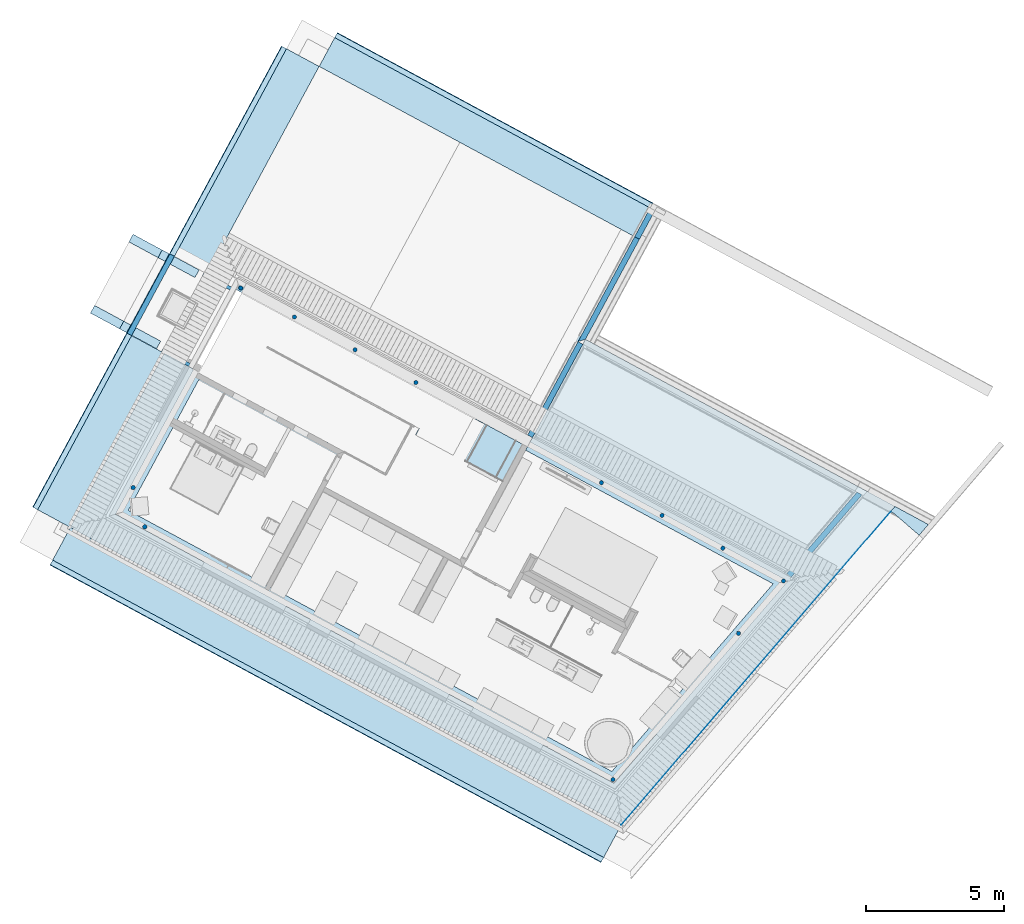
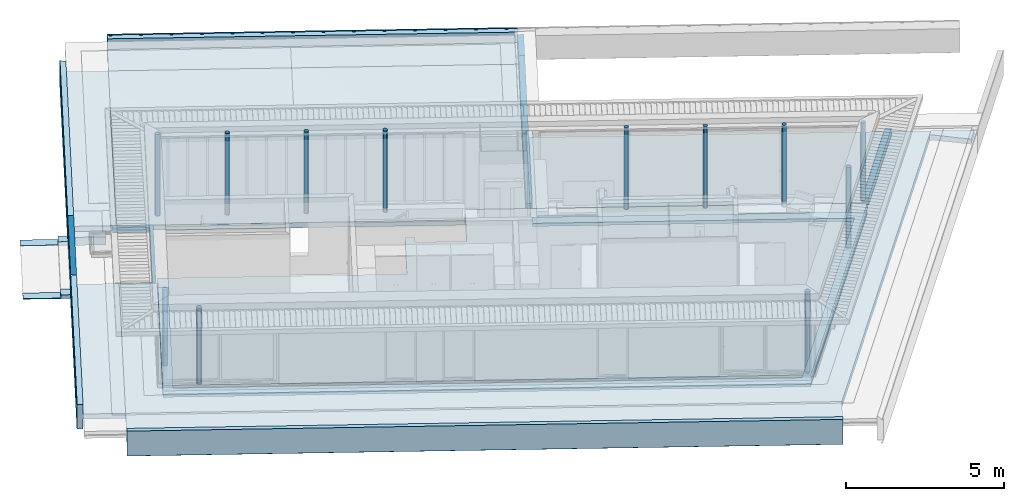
# One storey, part 1 of 41: 18 slabs, 12 columns.
"""IFC2X3 building model written with IfcOpenShell, lengths in metres."""

from ifc_helpers import new_model, entity, si_unit, converted_unit, derived_unit, money_unit, direction, frame, origin_with_axes, origin_2d_with_axis, place, context, subcontext, project, spatial, polyline, circle, hollow_circle, outline, composite_profile, extrude, material, material_list, layer, layer_set, layer_usage, type_object, element, save


model = new_model("IFC2X3")

# Units and contexts
model_context = context("Model", 3, precision=1e-05, world=origin_with_axes(), true_north=direction((0.0, 1.0)))
body_context = subcontext(model_context, "Body", "Model", "MODEL_VIEW")
ifc_project = project(units=[si_unit("LENGTHUNIT", "METRE"), si_unit("AREAUNIT", "SQUARE_METRE"), si_unit("VOLUMEUNIT", "CUBIC_METRE"), converted_unit("PLANEANGLEUNIT", "DEGREE", entity("IfcPlaneAngleMeasure", 0.0174532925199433), si_unit("PLANEANGLEUNIT", "RADIAN"), dimensions=[0, 0, 0, 0, 0, 0, 0]), money_unit("EUR"), converted_unit("TIMEUNIT", "Year", entity("IfcTimeMeasure", 31556926.0), si_unit("TIMEUNIT", "SECOND"), dimensions=[0, 0, 1, 0, 0, 0, 0]), si_unit("MASSUNIT", "GRAM", prefix="KILO"), si_unit("THERMODYNAMICTEMPERATUREUNIT", "DEGREE_CELSIUS"), si_unit("LUMINOUSINTENSITYUNIT", "LUMEN"), si_unit("ENERGYUNIT", "JOULE", prefix="MEGA"), derived_unit("THERMALCONDUCTANCEUNIT", [(si_unit("POWERUNIT", "WATT"), 1), (si_unit("LENGTHUNIT", "METRE"), -1), (si_unit("THERMODYNAMICTEMPERATUREUNIT", "KELVIN"), -1)]), derived_unit("SPECIFICHEATCAPACITYUNIT", [(si_unit("ENERGYUNIT", "JOULE"), 1), (si_unit("MASSUNIT", "GRAM", prefix="KILO"), -1), (si_unit("THERMODYNAMICTEMPERATUREUNIT", "KELVIN"), -1)]), derived_unit("MASSDENSITYUNIT", [(si_unit("MASSUNIT", "GRAM", prefix="KILO"), 1), (si_unit("VOLUMEUNIT", "CUBIC_METRE"), -1)])], contexts=[model_context])

# Site, building, storey
site_placement = place(None, frame((-3.949935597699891, 1.740105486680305, 0.0), z_axis=(0.0, 0.0, 1.0), x_axis=(0.8799804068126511, -0.475009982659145, 0.0)))
site = spatial("IfcSite", under=ifc_project, at=site_placement, Name="Gelände", CompositionType="ELEMENT")
building_placement = place(site_placement, origin_with_axes())
building = spatial("IfcBuilding", under=site, at=building_placement, Name="Gebäude", CompositionType="ELEMENT")
storey_placement = place(building_placement, frame((0.0, 0.0, 4.55), z_axis=(0.0, 0.0, 1.0), x_axis=(1.0, 0.0, 0.0)))
storey = spatial("IfcBuildingStorey", under=building, at=storey_placement, Name="Staffelgeschoss", CompositionType="ELEMENT", Elevation=4.55)

# Columns
ifc_material_1 = material(Name="Metall, Edelstahl")
column_type_1 = type_object("IfcColumnType", Name="Metall, Edelstahl D152", PredefinedType="COLUMN")
for number, where, z_axis, x_axis in (
    (1, (22.83947506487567, 10.78779359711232, -0.1900000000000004), (0.0, 0.0, 1.0), (1.0, 0.0, 0.0)),
    (2, (25.33797506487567, 10.78779359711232, -0.1900000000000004), (0.0, 0.0, 1.0), (1.0, 0.0, 0.0)),
    (3, (20.34097506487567, 10.78779359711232, -0.1900000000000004), (0.0, 0.0, 1.0), (1.0, 0.0, 0.0)),
):
    element("IfcColumn", number, at=place(storey_placement, frame(where, z_axis=z_axis, x_axis=x_axis)), inside=storey, type_object=column_type_1, material=ifc_material_1, Name="Stütze-003", ObjectType="COLUMN", context=body_context, shape_type="SweptSolid", body=[
        extrude(circle(Radius=0.076, at=origin_2d_with_axis()), origin_with_axes(), (0.0, 0.0, 1.0), 3.155000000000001),
    ])
ifc_material_2 = material(Name="_SIWH | Metall, Stahl lackiert")
ifc_material_3 = material(Name="_SIWH - Luftschicht vertikal")
ifc_material_list_1 = material_list([ifc_material_2, ifc_material_3])
column_type_2 = type_object("IfcColumnType", Name="_SIWH - Luftschicht vertikal D160", PredefinedType="COLUMN")
for number, where, z_axis, x_axis in (
    (4, (5.49748062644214, 2.574985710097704, -0.1900000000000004), (0.0, 0.0, 1.0), (1.0, 0.0, 0.0)),
    (5, (6.547480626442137, 1.524985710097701, -0.1900000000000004), (0.0, 0.0, 1.0), (1.0, 0.0, 0.0)),
):
    element("IfcColumn", number, at=place(storey_placement, frame(where, z_axis=z_axis, x_axis=x_axis)), inside=storey, type_object=column_type_2, material=ifc_material_list_1, Name="Stütze-003", ObjectType="COLUMN", context=body_context, shape_type="SweptSolid", body=[
        extrude(composite_profile([hollow_circle(Radius=0.07984999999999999, WallThickness=0.01, at=origin_2d_with_axis()), circle(Radius=0.06985, at=origin_2d_with_axis())]), origin_with_axes(), (0.0, 0.0, 1.0), 2.939999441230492),
    ])
ifc_material_4 = material(Name="Metall, Stahl lackiert")
column_type_3 = type_object("IfcColumnType", Name="Metall, Stahl lackiert D152", PredefinedType="COLUMN")
for number, where, z_axis, x_axis, name in (
    (6, (10.20533791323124, 10.78779359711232, -0.1499999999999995), (0.0, 0.0, 1.0), (1.0, 0.0, 0.0), "Stütze-003"),
    (7, (27.30450369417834, 8.344167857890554, -0.1499999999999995), (0.0, 0.0, 1.0), (1.0, 0.0, 0.0), "Stütze-004"),
    (8, (12.7047804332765, 10.78779359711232, -0.1499999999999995), (0.0, 0.0, 1.0), (1.0, 0.0, 0.0), "Stütze-003"),
    (9, (25.81513939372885, 1.524987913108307, -0.1499999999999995), (0.0, 0.0, 1.0), (1.0, 0.0, 0.0), "Stütze-004"),
    (10, (7.70533791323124, 10.78779359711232, -0.1499999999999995), (0.0, 0.0, 1.0), (1.0, 0.0, 0.0), "Stütze-003"),
):
    element("IfcColumn", number, at=place(storey_placement, frame(where, z_axis=z_axis, x_axis=x_axis)), inside=storey, type_object=column_type_3, material=ifc_material_4, Name=name, ObjectType="COLUMN", context=body_context, shape_type="SweptSolid", body=[
        extrude(circle(Radius=0.076, at=origin_2d_with_axis()), origin_with_axes(), (0.0, 0.0, 1.0), 3.154000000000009),
    ])
column_1_placement = place(storey_placement, frame((27.83821215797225, 10.78779359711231, -8.523344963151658e-08), z_axis=(0.0, 0.0, 1.0), x_axis=(1.0, 0.0, 0.0)))
element("IfcColumn", 11, at=column_1_placement, inside=storey, type_object=column_type_3, material=ifc_material_4, Name="Stütze-004", ObjectType="COLUMN", context=body_context, shape_type="SweptSolid", body=[
    extrude(circle(Radius=0.076, at=origin_2d_with_axis()), origin_with_axes(), (0.0, 0.0, 1.0), 3.004000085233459),
])
column_2_placement = place(storey_placement, frame((5.497480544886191, 10.78779359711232, -0.1499999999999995), z_axis=(0.0, 0.0, 1.0), x_axis=(1.0, 0.0, 0.0)))
element("IfcColumn", 12, at=column_2_placement, inside=storey, type_object=column_type_3, material=ifc_material_4, Name="Stütze-003", ObjectType="COLUMN", context=body_context, shape_type="SweptSolid", body=[
    extrude(circle(Radius=0.076, at=origin_2d_with_axis()), origin_with_axes(), (0.0, 0.0, 1.0), 3.154000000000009),
])

# Slabs
ifc_material_5 = material(Name="_SIWH - Beton, Stahlbeton")
ifc_layer_1 = layer(ifc_material_5, 0.25, ventilated="UNKNOWN")
ifc_layer_set_1 = layer_set([ifc_layer_1], Name="_SIWH - Beton, Stahlbeton 0.25")
ifc_layer_usage_1 = layer_usage(ifc_layer_set_1, "AXIS3", "NEGATIVE", 0.25)
slab_type_1 = type_object("IfcSlabType", Name="_SIWH - Beton, Stahlbeton 250", PredefinedType="FLOOR")
slab_1_placement = place(storey_placement, frame((4.182683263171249, 7.393034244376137, -0.3999999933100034), z_axis=(0.0, 0.0, 1.0), x_axis=(1.0, 0.0, 0.0)))
element("IfcSlab", 13, at=slab_1_placement, inside=storey, type_object=slab_type_1, material=ifc_layer_usage_1, Name="Decke009", PredefinedType="FLOOR", context=body_context, shape_type="SweptSolid", body=[
    extrude(outline(polyline([(0.0, 0.0), (-0.0002009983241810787, -7.168046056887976), (22.67915953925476, -7.168046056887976), (25.87189527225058, 7.450011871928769), (25.92431329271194, 7.690011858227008), (24.71647704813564, 7.690011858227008), (13.18479451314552, 7.690011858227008), (13.18477730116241, 3.464766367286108), (23.79364780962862, 3.464766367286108), (21.73344188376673, -5.968046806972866), (1.214797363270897, -5.968046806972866), (1.214797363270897, -0.03997470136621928), (1.174797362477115, -0.03997388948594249), (1.174799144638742, 0.0), (0.0, 0.0)])), frame((0.0, 0.0, -0.25), z_axis=(0.0, 0.0, 1.0), x_axis=(1.0, 0.0, 0.0)), (0.0, 0.0, 1.0), 0.25),
])
ifc_layer_usage_2 = layer_usage(ifc_layer_set_1, "AXIS3", "NEGATIVE", 0.25)
slab_2_placement = place(storey_placement, frame((30.05457860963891, 14.84304620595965, -0.3999999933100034), z_axis=(0.0, 0.0, 1.0), x_axis=(1.0, 0.0, 0.0)))
element("IfcSlab", 14, at=slab_2_placement, inside=storey, type_object=slab_type_1, material=ifc_layer_usage_2, Name="Decke-004", PredefinedType="FLOOR", context=body_context, shape_type="SweptSolid", body=[
    extrude(outline(polyline([(0.0, 0.0), (-3.192735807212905, -14.61805801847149), (-3.192707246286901, -14.61805801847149), (0.0, 0.0)])), frame((0.0, 0.0, -0.25), z_axis=(0.0, 0.0, 1.0), x_axis=(1.0, 0.0, 0.0)), (0.0, 0.0, 1.0), 0.25),
])
slab_type_2 = type_object("IfcSlabType", Name="_SIWH - Beton, Stahlbeton 200", PredefinedType="FLOOR")
slab_3_placement = place(storey_placement, frame((17.36747696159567, 14.88304610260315, -0.4499999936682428), z_axis=(0.0, 0.0, 1.0), x_axis=(0.0, -1.0, 0.0)))
element("IfcSlab", 15, at=slab_3_placement, inside=storey, type_object=slab_type_2, material=ifc_material_5, Name="Wand-026", PredefinedType="FLOOR", context=body_context, shape_type="SweptSolid", body=[
    extrude(outline(polyline([(-8.147210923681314e-07, -0.1999999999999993), (3.845245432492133, -0.1999999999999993), (3.845245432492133, 0.0), (0.0, 0.0), (-8.147210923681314e-07, -0.1999999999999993)])), origin_with_axes(), (0.0, 0.0, 1.0), 0.3249999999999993),
])
slab_4_placement = place(storey_placement, frame((28.01564459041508, 11.0378006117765, -0.3999999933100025), z_axis=(0.0, 0.0, 1.0), x_axis=(0.2133784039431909, 0.9769696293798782, 0.0)))
element("IfcSlab", 16, at=slab_4_placement, inside=storey, type_object=slab_type_2, material=ifc_material_5, Name="Wand-026", PredefinedType="FLOOR", context=body_context, shape_type="SweptSolid", body=[
    extrude(outline(polyline([(0.0, 0.0), (3.935842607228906, 0.0), (3.892161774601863, 0.2000000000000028), (-0.04368168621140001, 0.1999999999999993), (0.0, 0.0)])), origin_with_axes(), (0.0, 0.0, 1.0), 0.2749999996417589),
])
slab_5_placement = place(storey_placement, frame((17.3674759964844, 19.20028827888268, -0.6499999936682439), z_axis=(0.0, 0.0, 1.0), x_axis=(0.0, 1.0, 0.0)))
element("IfcSlab", 17, at=slab_5_placement, inside=storey, type_object=slab_type_2, material=ifc_material_5, Name="Wand-026", PredefinedType="FLOOR", context=body_context, shape_type="SweptSolid", body=[
    extrude(outline(polyline([(0.0, 0.0), (1.18499388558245, 0.0), (1.18499388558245, 0.1999999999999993), (0.0, 0.1999999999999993), (0.0, 0.0)])), origin_with_axes(), (0.0, 0.0, 1.0), 0.525),
])
slab_6_placement = place(storey_placement, frame((17.36747696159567, 14.88304610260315, -0.4499999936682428), z_axis=(0.0, 0.0, 1.0), x_axis=(0.0, 1.0, 0.0)))
element("IfcSlab", 18, at=slab_6_placement, inside=storey, type_object=slab_type_2, material=ifc_material_5, Name="Wand-026", PredefinedType="FLOOR", context=body_context, shape_type="SweptSolid", body=[
    extrude(outline(polyline([(0.2000000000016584, 0.0), (4.317284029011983, 0.0), (4.317284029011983, 0.1999999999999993), (8.147210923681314e-07, 0.1999999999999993), (0.2000000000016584, 0.0)])), origin_with_axes(), (0.0, 0.0, 1.0), 0.3249999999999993),
])
ifc_layer_2 = layer(ifc_material_5, 0.2, ventilated="UNKNOWN")
ifc_layer_set_2 = layer_set([ifc_layer_2], Name="_SIWH - Beton, Stahlbeton 0.2")
ifc_layer_usage_3 = layer_usage(ifc_layer_set_2, "AXIS3", "NEGATIVE", 0.2)
slab_7_placement = place(storey_placement, frame((4.182482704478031, 10.65779936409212, -0.4499999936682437), z_axis=(0.0, 0.0, 1.0), x_axis=(1.0, 0.0, 0.0)))
element("IfcSlab", 19, at=slab_7_placement, inside=storey, type_object=slab_type_2, material=ifc_layer_usage_3, Name="Decke010", PredefinedType="FLOOR", context=body_context, shape_type="SweptSolid", body=[
    extrude(outline(polyline([(0.0, 0.0), (13.18499425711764, 0.0), (13.18499425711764, 8.542475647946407), (0.0, 8.542475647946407), (0.0, 0.0)])), frame((0.0, 0.0, -0.2), z_axis=(0.0, 0.0, 1.0), x_axis=(1.0, 0.0, 0.0)), (0.0, 0.0, 1.0), 0.2),
])
ifc_layer_usage_4 = layer_usage(ifc_layer_set_2, "AXIS3", "NEGATIVE", 0.2)
slab_8_placement = place(storey_placement, frame((30.1069965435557, 15.08304610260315, -0.3999999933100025), z_axis=(0.0, 0.0, 1.0), x_axis=(1.0, 0.0, 0.0)))
element("IfcSlab", 20, at=slab_8_placement, inside=storey, type_object=slab_type_2, material=ifc_layer_usage_4, Name="Decke-004", PredefinedType="FLOOR", context=body_context, shape_type="SweptSolid", body=[
    extrude(outline(polyline([(0.0, 0.0), (-0.05241793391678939, -0.2399998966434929), (0.07041087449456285, -0.2399998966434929), (1.267198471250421, -0.5013886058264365), (1.376706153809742, 0.0), (0.0, 0.0)])), frame((0.0, 0.0, -0.2), z_axis=(0.0, 0.0, 1.0), x_axis=(1.0, 0.0, 0.0)), (0.0, 0.0, 1.0), 0.2),
])
ifc_material_6 = material(Name="_SIWH - Dämmung, weich Mineralwolle")
ifc_material_7 = material(Name="_SIWH - Beton, Stahlbeton Fertigteil")
ifc_material_8 = material(Name="_SIWH - Metall, Aluminium")
ifc_material_list_2 = material_list([ifc_material_6, ifc_material_5, ifc_material_7, ifc_material_8])
slab_type_3 = type_object("IfcSlabType", Name="_SIWH - Vordach+Arkade2 1555 x 980", PredefinedType="FLOOR")
slab_9_placement = place(storey_placement, frame((4.182489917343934, 10.65779936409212, -0.3999999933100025), z_axis=(0.0, 0.0, 1.0), x_axis=(0.0, 1.0, 0.0)))
element("IfcSlab", 21, at=slab_9_placement, inside=storey, type_object=slab_type_3, material=ifc_material_list_2, Name="Wand-024", PredefinedType="FLOOR", context=body_context, shape_type="SweptSolid", body=[
    extrude(composite_profile([outline(polyline([(0.0, -0.2500000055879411), (0.1199999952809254, -0.2500000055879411), (0.1199999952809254, -0.05000000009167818), (0.0, -0.05000000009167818), (0.0, -0.2500000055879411)])), outline(polyline([(1.344999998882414, -0.05000000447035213), (0.1199999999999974, -0.05000000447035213), (0.1199999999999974, -0.2500000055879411), (1.344999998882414, -0.2500000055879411), (1.344999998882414, -0.05000000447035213)])), outline(polyline([(1.545000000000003, -0.570000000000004), (1.545000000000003, 0.3699875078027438), (1.345, 0.3599875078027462), (1.344999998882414, -0.05000000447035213), (1.344999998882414, -0.2500000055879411), (1.345, -0.5700000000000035), (1.354999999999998, -0.5800000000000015), (1.480000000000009, -0.5800000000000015), (1.495000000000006, -0.565000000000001), (1.509999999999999, -0.5800000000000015), (1.534999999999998, -0.5800000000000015), (1.545000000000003, -0.570000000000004)])), outline(polyline([(1.493152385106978, 0.3744038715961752), (1.493252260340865, 0.3724063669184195), (1.534048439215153, 0.3744461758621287), (1.553000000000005, 0.3948980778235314), (1.553000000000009, 0.3449999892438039), (1.555000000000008, 0.3449999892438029), (1.555000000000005, 0.3999999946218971), (1.53313506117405, 0.3764030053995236), (1.493152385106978, 0.3744038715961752)]))]), frame((0.0, 0.0, 0.0), z_axis=(1.0, 0.0, 0.0), x_axis=(0.0, 1.0, 0.0)), (0.0, 0.0, 1.0), 8.54248280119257),
])
ifc_layer_3 = layer(ifc_material_5, 0.12, ventilated="UNKNOWN")
ifc_layer_set_3 = layer_set([ifc_layer_3], Name="_SIWH - Beton, Stahlbeton 0.12")
ifc_layer_usage_5 = layer_usage(ifc_layer_set_3, "AXIS3", "NEGATIVE", 0.12)
slab_type_4 = type_object("IfcSlabType", Name="_SIWH - Beton, Stahlbeton 120", PredefinedType="FLOOR")
slab_10_placement = place(storey_placement, frame((5.397480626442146, 1.424987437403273, -0.5299999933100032), z_axis=(0.0, 0.0, 1.0), x_axis=(1.0, 0.0, 0.0)))
element("IfcSlab", 22, at=slab_10_placement, inside=storey, type_object=slab_type_4, material=ifc_layer_usage_5, Name="Decke013", PredefinedType="FLOOR", context=body_context, shape_type="SweptSolid", body=[
    extrude(outline(polyline([(0.0, 0.0), (20.51864452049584, 0.0), (22.57885044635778, 9.432813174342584), (11.96999633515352, 9.43281318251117), (11.97005269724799, 9.092813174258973), (22.15657666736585, 9.092813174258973), (20.24488847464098, 0.3399999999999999), (0.3399999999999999, 0.3399999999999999), (0.3399999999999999, 5.928072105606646), (0.0, 5.928072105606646), (0.0, 0.0)])), frame((0.0, 0.0, -0.12), z_axis=(0.0, 0.0, 1.0), x_axis=(1.0, 0.0, 0.0)), (0.0, 0.0, 1.0), 0.12),
])
ifc_layer_4 = layer(ifc_material_5, 0.34, ventilated="UNKNOWN")
ifc_layer_set_4 = layer_set([ifc_layer_4], Name="_SIWH - Beton, Stahlbeton 0.34")
ifc_layer_usage_6 = layer_usage(ifc_layer_set_4, "AXIS3", "NEGATIVE", 0.34)
slab_type_5 = type_object("IfcSlabType", Name="_SIWH - Beton, Stahlbeton 340", PredefinedType="FLOOR")
slab_11_placement = place(storey_placement, frame((5.397480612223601, 7.353059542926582, -0.1899999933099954), z_axis=(0.0, 0.0, 1.0), x_axis=(1.0, 0.0, 0.0)))
element("IfcSlab", 23, at=slab_11_placement, inside=storey, type_object=slab_type_5, material=ifc_layer_usage_6, Name="Decke006", PredefinedType="FLOOR", context=body_context, shape_type="SweptSolid", body=[
    extrude(outline(polyline([(0.0, 0.0), (1.421854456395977e-08, -5.928072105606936), (20.51864453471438, -5.928072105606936), (22.57885038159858, 3.504741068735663), (9.837857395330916, 3.504741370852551), (9.837858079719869, 1.754736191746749), (8.209848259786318, 1.754735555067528), (8.209847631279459, 2.024734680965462), (7.897532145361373, 2.024735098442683), (7.897529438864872, 0.0), (0.0, 0.0)])), frame((0.0, 0.0, -0.34), z_axis=(0.0, 0.0, 1.0), x_axis=(1.0, 0.0, 0.0)), (0.0, 0.0, 1.0), 0.34),
])
slab_type_6 = type_object("IfcSlabType", Name="_SIWH - Vordach+Arkade3 1395 x 980", PredefinedType="FLOOR")
slab_12_placement = place(storey_placement, frame((4.182489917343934, 19.20028216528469, -0.3999999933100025), z_axis=(0.0, 0.0, 1.0), x_axis=(1.0, 0.0, 0.0)))
element("IfcSlab", 24, at=slab_12_placement, inside=storey, type_object=slab_type_6, material=ifc_material_list_2, Name="Wand-024", PredefinedType="FLOOR", context=body_context, shape_type="SweptSolid", body=[
    extrude(composite_profile([outline(polyline([(0.0, -0.2499999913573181), (0.120000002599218, -0.250000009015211), (0.120000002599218, -0.05000000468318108), (0.0, -0.05000000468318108), (0.0, -0.2499999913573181)])), outline(polyline([(1.184999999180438, -0.05000000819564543), (0.1199999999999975, -0.05000000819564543), (0.1199999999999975, -0.250000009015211), (1.184999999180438, -0.250000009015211), (1.184999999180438, -0.05000000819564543)])), outline(polyline([(1.385000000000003, -0.5700000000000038), (1.385000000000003, 0.3699875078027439), (1.185, 0.3599875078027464), (1.184999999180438, -0.05000000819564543), (1.184999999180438, -0.250000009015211), (1.185, -0.5700000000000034), (1.194999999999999, -0.5800000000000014), (1.320000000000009, -0.5800000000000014), (1.335000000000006, -0.5650000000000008), (1.35, -0.5800000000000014), (1.374999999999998, -0.5800000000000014), (1.385000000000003, -0.5700000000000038)])), outline(polyline([(1.333152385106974, 0.3744038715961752), (1.333252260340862, 0.3724063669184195), (1.37404843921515, 0.3744461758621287), (1.393000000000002, 0.3948980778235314), (1.393000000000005, 0.3449999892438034), (1.395000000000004, 0.3449999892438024), (1.395000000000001, 0.3999999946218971), (1.373135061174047, 0.3764030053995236), (1.333152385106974, 0.3744038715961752)]))]), frame((0.0, 0.0, 0.0), z_axis=(1.0, 0.0, 0.0), x_axis=(0.0, 1.0, 0.0)), (0.0, 0.0, 1.0), 12.98498704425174),
])
slab_type_7 = type_object("IfcSlabType", Name="_SIWH - Vordach+Arkade1 1555 x 980", PredefinedType="FLOOR")
slab_13_placement = place(storey_placement, frame((4.182482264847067, 0.2249881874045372, -0.3999999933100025), z_axis=(0.0, 0.0, 1.0), x_axis=(4.032873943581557e-07, 0.9999999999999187, 0.0)))
element("IfcSlab", 25, at=slab_13_placement, inside=storey, type_object=slab_type_7, material=ifc_material_list_2, Name="Wand-024", PredefinedType="FLOOR", context=body_context, shape_type="SweptSolid", body=[
    extrude(composite_profile([outline(polyline([(0.0, -0.1999999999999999), (0.1199999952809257, -0.1999999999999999), (0.1199999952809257, 5.496263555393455e-09), (0.0, 5.496263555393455e-09), (0.0, -0.1999999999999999)])), outline(polyline([(1.344999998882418, 1.11758913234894e-09), (0.120000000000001, 1.11758913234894e-09), (0.120000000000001, -0.1999999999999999), (1.344999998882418, -0.1999999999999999), (1.344999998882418, 1.11758913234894e-09)])), outline(polyline([(1.545000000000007, -0.570000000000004), (1.545000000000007, 0.3699875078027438), (1.345000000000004, 0.3599875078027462), (1.344999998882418, 1.11758913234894e-09), (1.344999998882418, -0.1999999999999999), (1.345000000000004, -0.5700000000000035), (1.355000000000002, -0.5800000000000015), (1.480000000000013, -0.5800000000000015), (1.49500000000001, -0.565000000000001), (1.510000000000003, -0.5800000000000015), (1.535000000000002, -0.5800000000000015), (1.545000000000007, -0.570000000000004)])), outline(polyline([(1.493152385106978, 0.3744038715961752), (1.493252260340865, 0.3724063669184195), (1.534048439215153, 0.3744461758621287), (1.553000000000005, 0.3948980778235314), (1.553000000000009, 0.3449999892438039), (1.555000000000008, 0.3449999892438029), (1.555000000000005, 0.3999999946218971), (1.53313506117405, 0.3764030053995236), (1.493152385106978, 0.3744038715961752)]))]), frame((0.0, 0.0, 0.0), z_axis=(1.0, 0.0, 0.0), x_axis=(0.0, 1.0, 0.0)), (0.0, 0.0, 1.0), 7.1680698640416),
])
slab_14_placement = place(storey_placement, frame((26.86187143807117, 0.2249881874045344, -0.3999999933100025), z_axis=(0.0, 0.0, 1.0), x_axis=(-1.0, 0.0, 0.0)))
element("IfcSlab", 26, at=slab_14_placement, inside=storey, type_object=slab_type_7, material=ifc_material_list_2, Name="Wand-024", PredefinedType="FLOOR", context=body_context, shape_type="SweptSolid", body=[
    extrude(composite_profile([outline(polyline([(0.0, -0.1999999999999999), (0.1199999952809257, -0.1999999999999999), (0.1199999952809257, 5.496263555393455e-09), (0.0, 5.496263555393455e-09), (0.0, -0.1999999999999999)])), outline(polyline([(1.344999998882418, 1.11758913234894e-09), (0.120000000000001, 1.11758913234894e-09), (0.120000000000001, -0.1999999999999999), (1.344999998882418, -0.1999999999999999), (1.344999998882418, 1.11758913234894e-09)])), outline(polyline([(1.545000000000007, -0.570000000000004), (1.545000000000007, 0.3699875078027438), (1.345000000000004, 0.3599875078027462), (1.344999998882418, 1.11758913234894e-09), (1.344999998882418, -0.1999999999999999), (1.345000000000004, -0.5700000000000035), (1.355000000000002, -0.5800000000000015), (1.480000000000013, -0.5800000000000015), (1.49500000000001, -0.565000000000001), (1.510000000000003, -0.5800000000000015), (1.535000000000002, -0.5800000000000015), (1.545000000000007, -0.570000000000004)])), outline(polyline([(1.493152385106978, 0.3744038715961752), (1.493252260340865, 0.3724063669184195), (1.534048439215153, 0.3744461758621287), (1.553000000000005, 0.3948980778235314), (1.553000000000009, 0.3449999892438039), (1.555000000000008, 0.3449999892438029), (1.555000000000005, 0.3999999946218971), (1.53313506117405, 0.3764030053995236), (1.493152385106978, 0.3744038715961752)]))]), frame((0.0, 0.0, 0.0), z_axis=(1.0, 0.0, 0.0), x_axis=(0.0, 1.0, 0.0)), (0.0, 0.0, 1.0), 22.67938917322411),
])
ifc_material_9 = material(Name="_SIWH - Abgehängte Decke Arkade")
ifc_material_10 = material(Name="_SIWH - Holz, Bauholz")
ifc_material_list_3 = material_list([ifc_material_9, ifc_material_9, ifc_material_10, ifc_material_10, ifc_material_9, ifc_material_6, ifc_material_3, ifc_material_3])
slab_type_8 = type_object("IfcSlabType", Name="_SIWH - Vordach Eingang 2 2720 x 310", PredefinedType="FLOOR")
slab_15_placement = place(storey_placement, frame((2.637489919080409, 7.403034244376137, -0.6499999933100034), z_axis=(0.0, 0.0, 1.0), x_axis=(0.0, 1.0, 0.0)))
element("IfcSlab", 27, at=slab_15_placement, inside=storey, type_object=slab_type_8, material=ifc_material_list_3, Name="Wand-024", PredefinedType="FLOOR", context=body_context, shape_type="SweptSolid", body=[
    extrude(composite_profile([outline(polyline([(-1.5, -0.3099999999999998), (1.22, -0.3099999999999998), (1.22, -0.2849999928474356), (0.7849999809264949, -0.2849999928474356), (0.6849999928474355, -0.2849999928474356), (-0.1750000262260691, -0.2849999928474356), (-0.2750000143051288, -0.2849999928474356), (-0.2999999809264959, -0.2849999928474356), (-1.5, -0.2849999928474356), (-1.5, -0.3099999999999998)])), outline(polyline([(-0.3000000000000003, -0.2849999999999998), (-0.275000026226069, -0.2849999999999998), (-0.275000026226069, -0.1849999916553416), (-0.1750000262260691, -0.1850000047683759), (0.6849999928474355, -0.1850000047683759), (0.7849999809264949, -0.1850000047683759), (1.22, -0.1849999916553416), (1.22, -0.1599999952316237), (0.1599999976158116, -0.1599999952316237), (0.1350000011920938, -0.1599999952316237), (-0.3000000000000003, -0.1599999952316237), (-0.3000000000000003, -0.2849999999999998)])), outline(polyline([(-0.1750000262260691, -0.1850000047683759), (-0.2750000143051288, -0.1850000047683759), (-0.2750000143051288, -0.2849999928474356), (-0.1750000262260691, -0.2849999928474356), (-0.1750000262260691, -0.1850000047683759)])), outline(polyline([(0.6849999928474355, -0.2849999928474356), (0.7849999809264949, -0.2849999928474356), (0.7849999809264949, -0.1850000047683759), (0.6849999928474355, -0.1850000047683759), (0.6849999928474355, -0.2849999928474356)])), outline(polyline([(0.0, 0.0), (0.0, -0.0249999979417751), (0.1349999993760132, -0.0249999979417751), (0.1349999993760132, -0.1600000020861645), (0.1599999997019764, -0.1600000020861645), (0.1599999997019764, 0.0), (0.0, 0.0)])), outline(polyline([(0.1599999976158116, -0.1599999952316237), (1.22, -0.1599999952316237), (1.22, 0.0), (0.1599999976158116, 0.0), (0.1599999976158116, -0.1599999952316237)])), outline(polyline([(0.6849999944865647, -0.1850000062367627), (-0.1750000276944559, -0.1850000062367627), (-0.1750000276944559, -0.2849999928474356), (0.6849999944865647, -0.2849999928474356), (0.6849999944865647, -0.1850000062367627)])), outline(polyline([(0.7849999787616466, -0.2849999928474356), (1.22, -0.2849999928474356), (1.22, -0.1850000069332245), (0.7849999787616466, -0.1850000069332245), (0.7849999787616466, -0.2849999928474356)]))]), frame((0.0, 0.0, 0.0), z_axis=(-1.0, 0.0, 0.0), x_axis=(0.0, -1.0, 0.0)), (0.0, 0.0, -1.0), 0.3149999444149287),
])
slab_16_placement = place(storey_placement, frame((2.637489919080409, 10.33280025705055, -0.6499999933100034), z_axis=(0.0, 0.0, 1.0), x_axis=(0.0, 1.0, 0.0)))
element("IfcSlab", 28, at=slab_16_placement, inside=storey, type_object=slab_type_8, material=ifc_material_list_3, Name="Wand-024", PredefinedType="FLOOR", context=body_context, shape_type="SweptSolid", body=[
    extrude(composite_profile([outline(polyline([(-1.5, -0.3099999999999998), (1.22, -0.3099999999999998), (1.22, -0.2849999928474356), (0.7849999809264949, -0.2849999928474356), (0.6849999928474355, -0.2849999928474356), (-0.1750000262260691, -0.2849999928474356), (-0.2750000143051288, -0.2849999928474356), (-0.2999999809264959, -0.2849999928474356), (-1.5, -0.2849999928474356), (-1.5, -0.3099999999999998)])), outline(polyline([(-0.3000000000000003, -0.2849999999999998), (-0.275000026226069, -0.2849999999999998), (-0.275000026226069, -0.1849999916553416), (-0.1750000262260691, -0.1850000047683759), (0.6849999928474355, -0.1850000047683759), (0.7849999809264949, -0.1850000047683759), (1.22, -0.1849999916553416), (1.22, -0.1599999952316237), (0.1599999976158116, -0.1599999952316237), (0.1350000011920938, -0.1599999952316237), (-0.3000000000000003, -0.1599999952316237), (-0.3000000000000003, -0.2849999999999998)])), outline(polyline([(-0.1750000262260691, -0.1850000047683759), (-0.2750000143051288, -0.1850000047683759), (-0.2750000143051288, -0.2849999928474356), (-0.1750000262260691, -0.2849999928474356), (-0.1750000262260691, -0.1850000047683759)])), outline(polyline([(0.6849999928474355, -0.2849999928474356), (0.7849999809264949, -0.2849999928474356), (0.7849999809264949, -0.1850000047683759), (0.6849999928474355, -0.1850000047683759), (0.6849999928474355, -0.2849999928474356)])), outline(polyline([(0.0, 0.0), (0.0, -0.0249999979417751), (0.1349999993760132, -0.0249999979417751), (0.1349999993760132, -0.1600000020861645), (0.1599999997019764, -0.1600000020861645), (0.1599999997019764, 0.0), (0.0, 0.0)])), outline(polyline([(0.1599999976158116, -0.1599999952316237), (1.22, -0.1599999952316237), (1.22, 0.0), (0.1599999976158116, 0.0), (0.1599999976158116, -0.1599999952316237)])), outline(polyline([(0.6849999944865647, -0.1850000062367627), (-0.1750000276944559, -0.1850000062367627), (-0.1750000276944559, -0.2849999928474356), (0.6849999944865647, -0.2849999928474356), (0.6849999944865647, -0.1850000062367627)])), outline(polyline([(0.7849999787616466, -0.2849999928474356), (1.22, -0.2849999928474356), (1.22, -0.1850000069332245), (0.7849999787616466, -0.1850000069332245), (0.7849999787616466, -0.2849999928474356)]))]), frame((0.0, 0.0, 0.0), z_axis=(-1.0, 0.0, 0.0), x_axis=(0.0, -1.0, 0.0)), (0.0, 0.0, -1.0), 0.3149999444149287),
])
ifc_material_list_4 = material_list([ifc_material_8, ifc_material_7])
slab_type_9 = type_object("IfcSlabType", Name="_SIWH - Vordach+Arkade2 nur Luftbalken 210 x 650", PredefinedType="FLOOR")
slab_17_placement = place(storey_placement, frame((4.182489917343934, 7.393058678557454, -0.3999999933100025), z_axis=(0.0, 0.0, 1.0), x_axis=(0.0, 1.0, 0.0)))
element("IfcSlab", 29, at=slab_17_placement, inside=storey, type_object=slab_type_9, material=ifc_material_list_4, Name="Wand-024", PredefinedType="FLOOR", context=body_context, shape_type="SweptSolid", body=[
    extrude(composite_profile([outline(polyline([(1.493152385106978, 0.3744038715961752), (1.493252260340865, 0.3724063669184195), (1.534048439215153, 0.3744461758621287), (1.553000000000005, 0.3948980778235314), (1.553000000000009, 0.3449999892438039), (1.555000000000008, 0.3449999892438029), (1.555000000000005, 0.3999999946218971), (1.53313506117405, 0.3764030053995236), (1.493152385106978, 0.3744038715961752)])), outline(polyline([(1.345, 0.359987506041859), (1.345, -0.2399999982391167), (1.355000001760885, -0.2500000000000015), (1.479999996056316, -0.2500000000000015), (1.494999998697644, -0.2349999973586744), (1.510000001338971, -0.2500000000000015), (1.53499999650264, -0.2500000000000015), (1.544999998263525, -0.2399999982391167), (1.544999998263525, 0.3699875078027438), (1.345, 0.359987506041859)]))]), frame((0.0, 0.0, 0.0), z_axis=(1.0, 0.0, 0.0), x_axis=(0.0, 1.0, 0.0)), (0.0, 0.0, 1.0), 3.264740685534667),
])
ifc_layer_5 = layer(ifc_material_6, 0.2, ventilated="UNKNOWN")
ifc_layer_set_5 = layer_set([ifc_layer_5], Name="_SIWH - Dämmung, weich Mineralwolle 0.2")
ifc_layer_usage_7 = layer_usage(ifc_layer_set_5, "AXIS3", "NEGATIVE", 0.2)
slab_type_10 = type_object("IfcSlabType", Name="_SIWH - Dämmung, weich Mineralwolle 200", PredefinedType="FLOOR")
slab_18_placement = place(storey_placement, frame((4.062489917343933, 10.53779936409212, -0.4500000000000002), z_axis=(0.0, 0.0, 1.0), x_axis=(1.0, 0.0, 0.0)))
element("IfcSlab", 30, at=slab_18_placement, inside=storey, type_object=slab_type_10, material=ifc_layer_usage_7, Name="Decke021", PredefinedType="FLOOR", context=body_context, shape_type="SweptSolid", body=[
    extrude(outline(polyline([(0.0, 0.0), (1.174992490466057, 0.0), (1.174992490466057, -3.024765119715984), (-4.761704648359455e-06, -3.024765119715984), (-4.761704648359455e-06, -3.144741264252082), (1.294992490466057, -3.144765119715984), (1.294992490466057, 0.1199999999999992), (0.0, 0.1199999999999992), (0.0, 0.0)])), frame((0.0, 0.0, -0.2), z_axis=(0.0, 0.0, 1.0), x_axis=(1.0, 0.0, 0.0)), (0.0, 0.0, 1.0), 0.2),
])

save(model, "model.ifc")
